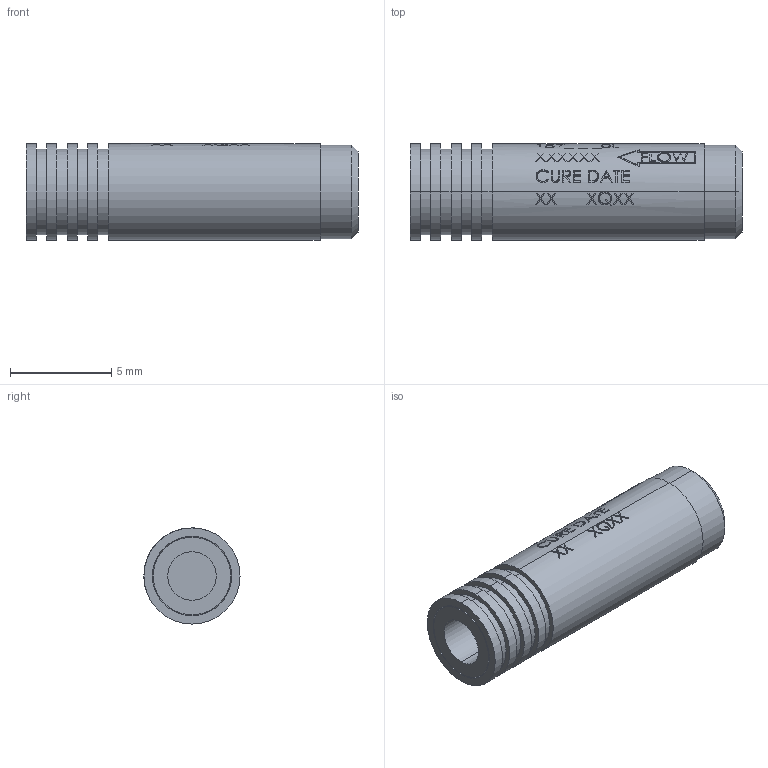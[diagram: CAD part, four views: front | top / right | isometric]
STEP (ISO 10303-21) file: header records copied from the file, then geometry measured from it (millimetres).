
FILE_DESCRIPTION (( 'STEP AP214' ), '1' );
FILE_NAME ('3DPSRA187---0L.STEP', '2021-04-01T17:07:07', ( '' ), ( '' ), 'SwSTEP 2.0', 'SolidWorks 2019', '' );
FILE_SCHEMA (( 'AUTOMOTIVE_DESIGN' ));
Length unit declared in the file: inch
Products named in the file (1): 3DPSRA187---0L
Bounding box: 16.43 x 4.76 x 4.76 mm (x, y, z)
Volume: 264.1 mm3; surface area: 341.9 mm2
Topology: 1 solids, 1 shells, 533 faces, 1403 edges, 934 vertices
Faces by surface type: bspline 229, plane 223, cylinder 77, cone 4
Entity records: 27383 total; most frequent: CARTESIAN_POINT 9916, ORIENTED_EDGE 2806, DIRECTION 1441, EDGE_CURVE 1403, VERTEX_POINT 934, B_SPLINE_CURVE_WITH_KNOTS 768, EDGE_LOOP 595, FACE_OUTER_BOUND 533
